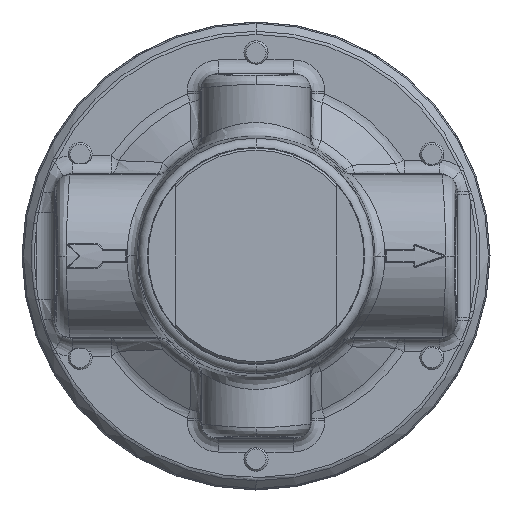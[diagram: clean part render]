
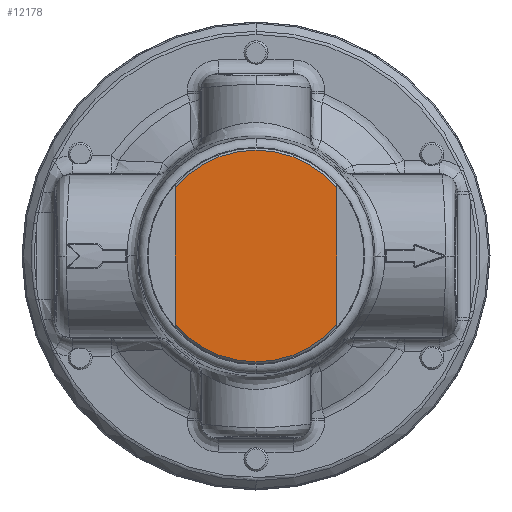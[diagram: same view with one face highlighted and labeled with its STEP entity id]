
A CAD part, front view. The second image highlights one B-rep face of the part: STEP entity #12178.
In plain terms, the highlighted planar face has unit normal (0, -1, 0).
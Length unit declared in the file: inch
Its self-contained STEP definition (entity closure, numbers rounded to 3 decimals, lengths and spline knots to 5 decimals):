
#3451 = EDGE_LOOP ( 'NONE', ( #10875, #10876, #10877, #10878 ) ) ;
#5456 = VERTEX_POINT ( 'NONE', #28639 ) ;
#5486 = VERTEX_POINT ( 'NONE', #28669 ) ;
#5491 = VERTEX_POINT ( 'NONE', #28674 ) ;
#5492 = VERTEX_POINT ( 'NONE', #28675 ) ;
#10307 = EDGE_CURVE ( 'NONE', #5456, #5486, #35658, .T. ) ;
#10308 = EDGE_CURVE ( 'NONE', #5456, #5491, #35143, .T. ) ;
#10309 = EDGE_CURVE ( 'NONE', #5491, #5492, #35668, .T. ) ;
#10310 = EDGE_CURVE ( 'NONE', #5492, #5486, #35250, .T. ) ;
#10875 = ORIENTED_EDGE ( 'NONE', *, *, #10307, .F. ) ;
#10876 = ORIENTED_EDGE ( 'NONE', *, *, #10308, .T. ) ;
#10877 = ORIENTED_EDGE ( 'NONE', *, *, #10309, .T. ) ;
#10878 = ORIENTED_EDGE ( 'NONE', *, *, #10310, .T. ) ;
#12178 = ADVANCED_FACE ( 'NONE', ( #39892 ), #39893, .T. ) ;
#28639 = CARTESIAN_POINT ( 'NONE',  ( -0.55875, -1.906, -0.47366 ) ) ;
#28669 = CARTESIAN_POINT ( 'NONE',  ( -0.55875, -1.906, 0.47366 ) ) ;
#28674 = CARTESIAN_POINT ( 'NONE',  ( 0.55875, -1.906, -0.47366 ) ) ;
#28675 = CARTESIAN_POINT ( 'NONE',  ( 0.55875, -1.906, 0.47366 ) ) ;
#35143 = CIRCLE ( 'NONE', #35249, 0.7325 ) ;
#35245 = VECTOR ( 'NONE', #35667, 39.37008 ) ;
#35247 = VECTOR ( 'NONE', #35672, 39.37008 ) ;
#35249 = AXIS2_PLACEMENT_3D ( 'NONE', #35669, #35670, #35671 ) ;
#35250 = CIRCLE ( 'NONE', #35252, 0.7325 ) ;
#35252 = AXIS2_PLACEMENT_3D ( 'NONE', #35673, #35674, #35675 ) ;
#35658 = LINE ( 'NONE', #35659, #35245 ) ;
#35659 = CARTESIAN_POINT ( 'NONE',  ( -0.55875, -1.906, 0. ) ) ;
#35666 = CARTESIAN_POINT ( 'NONE',  ( 0.55875, -1.906, 0. ) ) ;
#35667 = DIRECTION ( 'NONE',  ( 0., 0., 1. ) ) ;
#35668 = LINE ( 'NONE', #35666, #35247 ) ;
#35669 = CARTESIAN_POINT ( 'NONE',  ( 0., -1.906, 0. ) ) ;
#35670 = DIRECTION ( 'NONE',  ( 0., -1., 0. ) ) ;
#35671 = DIRECTION ( 'NONE',  ( 1., 0., 0. ) ) ;
#35672 = DIRECTION ( 'NONE',  ( 0., 0., 1. ) ) ;
#35673 = CARTESIAN_POINT ( 'NONE',  ( 0., -1.906, 0. ) ) ;
#35674 = DIRECTION ( 'NONE',  ( 0., -1., 0. ) ) ;
#35675 = DIRECTION ( 'NONE',  ( 1., 0., 0. ) ) ;
#37904 = AXIS2_PLACEMENT_3D ( 'NONE', #39890, #39896, #39897 ) ;
#39890 = CARTESIAN_POINT ( 'NONE',  ( 0., -1.906, 0. ) ) ;
#39892 = FACE_OUTER_BOUND ( 'NONE', #3451, .T. ) ;
#39893 = PLANE ( 'NONE',  #37904 ) ;
#39896 = DIRECTION ( 'NONE',  ( 0., -1., 0. ) ) ;
#39897 = DIRECTION ( 'NONE',  ( 1., 0., 0. ) ) ;
